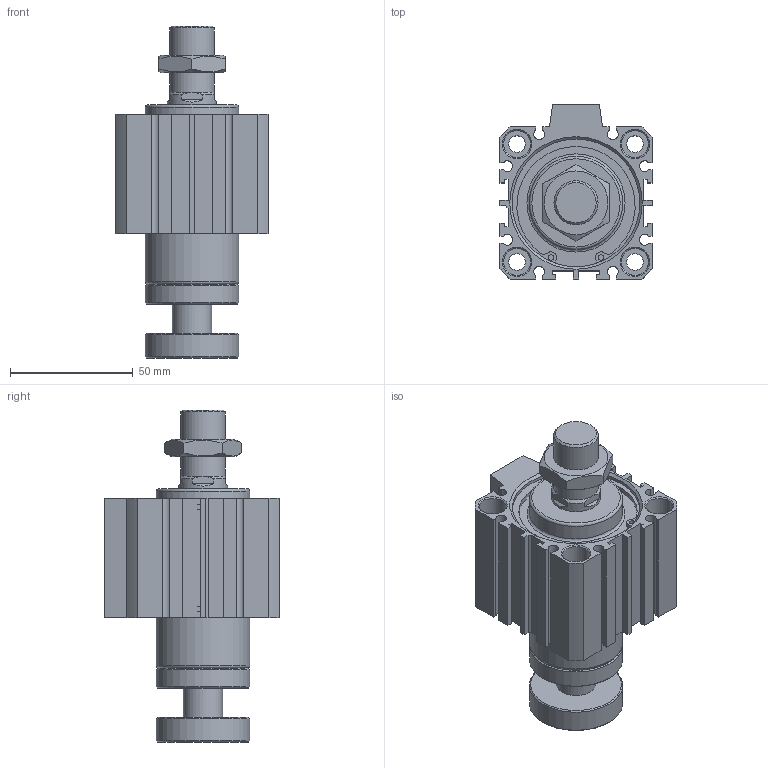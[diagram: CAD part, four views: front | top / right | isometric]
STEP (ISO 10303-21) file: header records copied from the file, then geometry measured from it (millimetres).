
FILE_DESCRIPTION((''),'2;1');
FILE_NAME('I:\3D電子目錄\氣缸\JDAR\JDAR-B\JDAR50-B\JDAR50x20-B.stp','2007-03-22T15:31:30',('662F206'),(''),'Autodesk Inventor 11','Autodesk Inventor 11','');
FILE_SCHEMA(('AUTOMOTIVE_DESIGN { 1 0 10303 214 1 1 1 1 }'));
Length unit declared in the file: millimetre
Products named in the file (3): JDAR50-B; R 形環 52
Assembly tree (3 placements, depth 2):
  JDAR50-B
    JDAR50-B
    R 形環 52  x2
Bounding box: 62 x 71 x 135.3 mm (x, y, z)
Volume: 219625.7 mm3; surface area: 49034.7 mm2
Topology: 3 solids, 3 shells, 204 faces, 493 edges, 321 vertices
Faces by surface type: plane 119, cylinder 56, cone 25, bspline 2, torus 2
Full cylindrical faces by diameter (mm): 2.3 x4, 2.7 x2, 6.8 x4, 11 x8, 16 x1, 18 x2, 20 x1, 38 x4, 52 x4, 55 x2
Entity records: 5422 total; most frequent: CARTESIAN_POINT 1023, DIRECTION 907, ORIENTED_EDGE 804, EDGE_CURVE 402, AXIS2_PLACEMENT_3D 329, VERTEX_POINT 295, EDGE_LOOP 285, VECTOR 249
